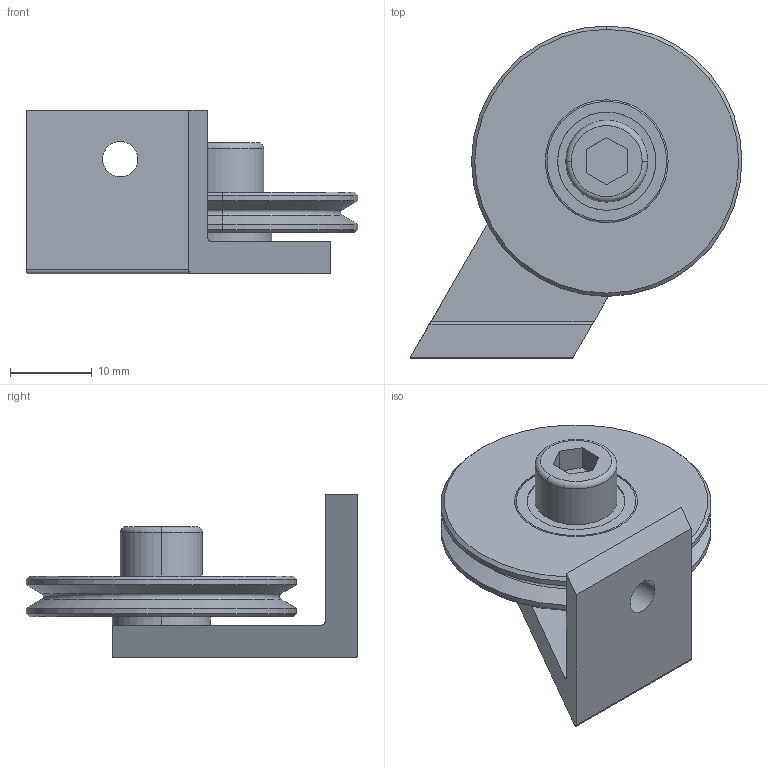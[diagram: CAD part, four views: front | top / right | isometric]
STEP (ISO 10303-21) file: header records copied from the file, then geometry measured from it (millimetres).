
FILE_DESCRIPTION((''),'2;1');
FILE_NAME('TR4-WDS_ASM','2020-06-24T08:46:17',('15000593'),(''),'CREO PARAMETRIC BY PTC INC, 2019224','CREO PARAMETRIC BY PTC INC, 2019224','');
FILE_SCHEMA(('CONFIG_CONTROL_DESIGN'));
Length unit declared in the file: millimetre
Products named in the file (6): DRZAK_KLADKY_TR4; PODLOZKA_VYMEZOVACI_6X12X1; LOZISKO_696_6X15X5; KLADKA_TR4; SROUB_ISO4762_VALC_HEX_M6X10; TR4-WDS_ASM
Assembly tree (5 placements, depth 2):
  TR4-WDS_ASM
    DRZAK_KLADKY_TR4
    PODLOZKA_VYMEZOVACI_6X12X1
    LOZISKO_696_6X15X5
    KLADKA_TR4
    SROUB_ISO4762_VALC_HEX_M6X10
Bounding box: 40.5 x 40.5 x 20 mm (x, y, z)
Volume: 7868.9 mm3; surface area: 7027.9 mm2
Topology: 18 solids, 20 shells, 121 faces, 276 edges, 154 vertices
Faces by surface type: cylinder 44, plane 31, sphere 20, torus 16, cone 10
Entity records: 3345 total; most frequent: DIRECTION 646, CARTESIAN_POINT 552, ORIENTED_EDGE 464, AXIS2_PLACEMENT_3D 278, EDGE_CURVE 236, VERTEX_POINT 154, CIRCLE 142, EDGE_LOOP 140
